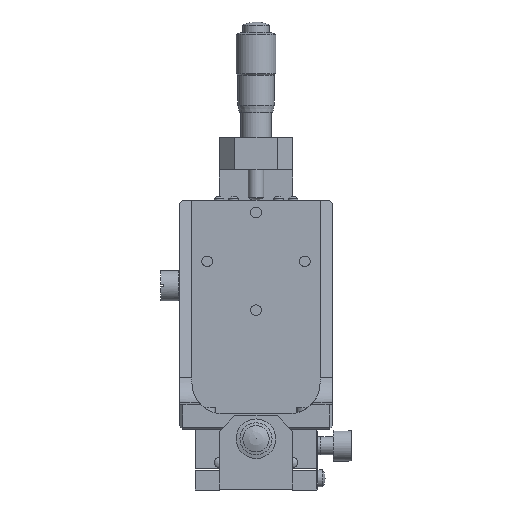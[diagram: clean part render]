
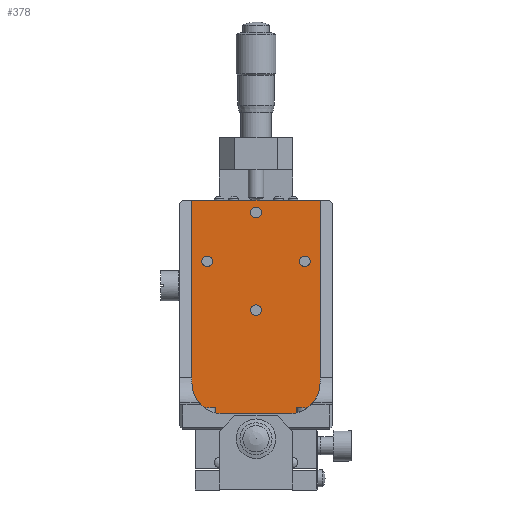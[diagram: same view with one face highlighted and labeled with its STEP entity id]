
A CAD part, front view. The second image highlights one B-rep face of the part: STEP entity #378.
In plain terms, the highlighted planar face has unit normal (0, -1, 0).
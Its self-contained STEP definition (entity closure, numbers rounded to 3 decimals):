
#378 = ADVANCED_FACE( '', ( #786, #787, #788, #789, #790 ), #791, .T. );
#786 = FACE_BOUND( '', #1786, .T. );
#787 = FACE_BOUND( '', #1787, .T. );
#788 = FACE_BOUND( '', #1788, .T. );
#789 = FACE_BOUND( '', #1789, .T. );
#790 = FACE_OUTER_BOUND( '', #1790, .T. );
#791 = PLANE( '', #1791 );
#1786 = EDGE_LOOP( '', ( #2827 ) );
#1787 = EDGE_LOOP( '', ( #2828 ) );
#1788 = EDGE_LOOP( '', ( #2829 ) );
#1789 = EDGE_LOOP( '', ( #2830 ) );
#1790 = EDGE_LOOP( '', ( #2831, #2832, #2833, #2834, #2835, #2836 ) );
#1791 = AXIS2_PLACEMENT_3D( '', #2837, #2838, #2839 );
#2827 = ORIENTED_EDGE( '', *, *, #5387, .F. );
#2828 = ORIENTED_EDGE( '', *, *, #5388, .F. );
#2829 = ORIENTED_EDGE( '', *, *, #5389, .F. );
#2830 = ORIENTED_EDGE( '', *, *, #5390, .F. );
#2831 = ORIENTED_EDGE( '', *, *, #5383, .T. );
#2832 = ORIENTED_EDGE( '', *, *, #5380, .T. );
#2833 = ORIENTED_EDGE( '', *, *, #5391, .T. );
#2834 = ORIENTED_EDGE( '', *, *, #5392, .T. );
#2835 = ORIENTED_EDGE( '', *, *, #5393, .T. );
#2836 = ORIENTED_EDGE( '', *, *, #5394, .T. );
#2837 = CARTESIAN_POINT( '', ( -11., 5., 35. ) );
#2838 = DIRECTION( '', ( 0., -1., 0. ) );
#2839 = DIRECTION( '', ( 0., 0., 1. ) );
#5380 = EDGE_CURVE( '', #6142, #6140, #6143, .T. );
#5383 = EDGE_CURVE( '', #6147, #6142, #6148, .T. );
#5387 = EDGE_CURVE( '', #6154, #6154, #6155, .T. );
#5388 = EDGE_CURVE( '', #6156, #6156, #6157, .T. );
#5389 = EDGE_CURVE( '', #6158, #6158, #6159, .T. );
#5390 = EDGE_CURVE( '', #6160, #6160, #6161, .T. );
#5391 = EDGE_CURVE( '', #6140, #6162, #6163, .T. );
#5392 = EDGE_CURVE( '', #6162, #6164, #6165, .T. );
#5393 = EDGE_CURVE( '', #6164, #6166, #6167, .T. );
#5394 = EDGE_CURVE( '', #6166, #6147, #6168, .T. );
#6140 = VERTEX_POINT( '', #7429 );
#6142 = VERTEX_POINT( '', #7432 );
#6143 = LINE( '', #7433, #7434 );
#6147 = VERTEX_POINT( '', #7440 );
#6148 = LINE( '', #7441, #7442 );
#6154 = VERTEX_POINT( '', #7450 );
#6155 = CIRCLE( '', #7451, 1.75 );
#6156 = VERTEX_POINT( '', #7452 );
#6157 = CIRCLE( '', #7453, 1.75 );
#6158 = VERTEX_POINT( '', #7454 );
#6159 = CIRCLE( '', #7455, 1.75 );
#6160 = VERTEX_POINT( '', #7456 );
#6161 = CIRCLE( '', #7457, 1.75 );
#6162 = VERTEX_POINT( '', #7458 );
#6163 = LINE( '', #7459, #7460 );
#6164 = VERTEX_POINT( '', #7461 );
#6165 = CIRCLE( '', #7462, 10. );
#6166 = VERTEX_POINT( '', #7463 );
#6167 = LINE( '', #7464, #7465 );
#6168 = CIRCLE( '', #7466, 10. );
#7429 = CARTESIAN_POINT( '', ( -21., 5., 95. ) );
#7432 = CARTESIAN_POINT( '', ( 21., 5., 95. ) );
#7433 = CARTESIAN_POINT( '', ( 21., 5., 95. ) );
#7434 = VECTOR( '', #9470, 1000. );
#7440 = CARTESIAN_POINT( '', ( 21., 5., 35. ) );
#7441 = CARTESIAN_POINT( '', ( 21., 5., 35. ) );
#7442 = VECTOR( '', #9473, 1000. );
#7450 = CARTESIAN_POINT( '', ( 16., 5., 76.75 ) );
#7451 = AXIS2_PLACEMENT_3D( '', #9479, #9480, #9481 );
#7452 = CARTESIAN_POINT( '', ( 0., 5., 92.75 ) );
#7453 = AXIS2_PLACEMENT_3D( '', #9482, #9483, #9484 );
#7454 = CARTESIAN_POINT( '', ( -16., 5., 76.75 ) );
#7455 = AXIS2_PLACEMENT_3D( '', #9485, #9486, #9487 );
#7456 = CARTESIAN_POINT( '', ( 0., 5., 60.75 ) );
#7457 = AXIS2_PLACEMENT_3D( '', #9488, #9489, #9490 );
#7458 = CARTESIAN_POINT( '', ( -21., 5., 35. ) );
#7459 = CARTESIAN_POINT( '', ( -21., 5., 95. ) );
#7460 = VECTOR( '', #9491, 1000. );
#7461 = CARTESIAN_POINT( '', ( -11., 5., 25. ) );
#7462 = AXIS2_PLACEMENT_3D( '', #9492, #9493, #9494 );
#7463 = CARTESIAN_POINT( '', ( 11., 5., 25. ) );
#7464 = CARTESIAN_POINT( '', ( -11., 5., 25. ) );
#7465 = VECTOR( '', #9495, 1000. );
#7466 = AXIS2_PLACEMENT_3D( '', #9496, #9497, #9498 );
#9470 = DIRECTION( '', ( -1., 0., 0. ) );
#9473 = DIRECTION( '', ( 0., 0., 1. ) );
#9479 = CARTESIAN_POINT( '', ( 16., 5., 75. ) );
#9480 = DIRECTION( '', ( 0., -1., 0. ) );
#9481 = DIRECTION( '', ( 0., 0., 1. ) );
#9482 = CARTESIAN_POINT( '', ( 0., 5., 91. ) );
#9483 = DIRECTION( '', ( 0., -1., 0. ) );
#9484 = DIRECTION( '', ( 0., 0., 1. ) );
#9485 = CARTESIAN_POINT( '', ( -16., 5., 75. ) );
#9486 = DIRECTION( '', ( 0., -1., 0. ) );
#9487 = DIRECTION( '', ( 0., 0., 1. ) );
#9488 = CARTESIAN_POINT( '', ( 0., 5., 59. ) );
#9489 = DIRECTION( '', ( 0., -1., 0. ) );
#9490 = DIRECTION( '', ( 0., 0., 1. ) );
#9491 = DIRECTION( '', ( 0., 0., -1. ) );
#9492 = CARTESIAN_POINT( '', ( -11., 5., 35. ) );
#9493 = DIRECTION( '', ( 0., -1., 0. ) );
#9494 = DIRECTION( '', ( -1., 0., 0. ) );
#9495 = DIRECTION( '', ( 1., 0., 0. ) );
#9496 = CARTESIAN_POINT( '', ( 11., 5., 35. ) );
#9497 = DIRECTION( '', ( 0., -1., 0. ) );
#9498 = DIRECTION( '', ( 0., 0., -1. ) );
